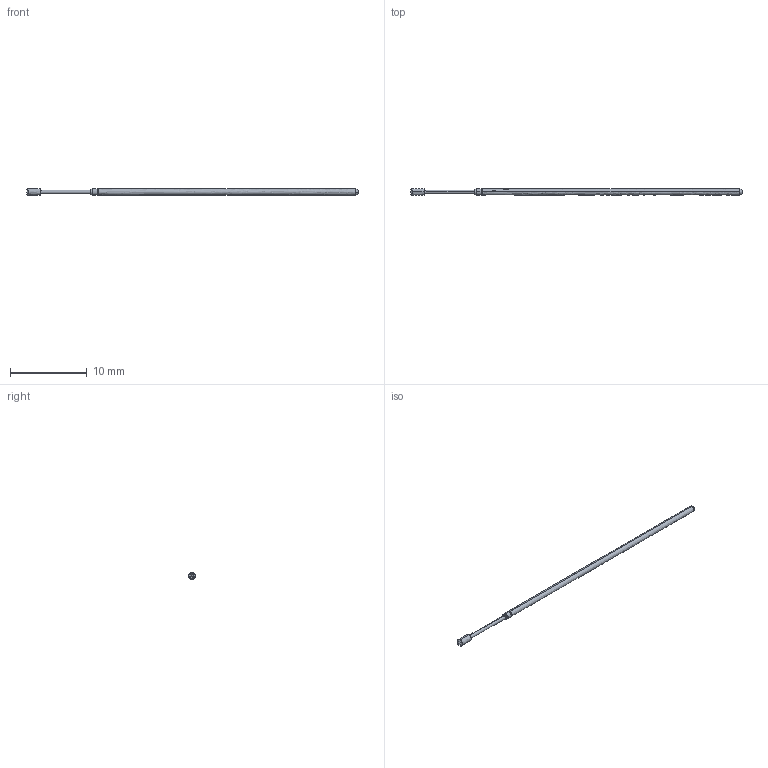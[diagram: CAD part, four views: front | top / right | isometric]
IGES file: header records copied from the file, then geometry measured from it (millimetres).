
Start section: SolidWorks IGES file using analytic representation for surfaces
Global section: file name: L:\probe solid model mockups\Solidworks models\POGO-72H.IGS; native system: SolidWorks 2006 by SolidWorks Corporation; preprocessor: SolidWorks 2006 by SolidWorks Corporation; author: Ksnyder; date: 071211.135629; units: inch
Bounding box: 43.18 x 0.89 x 0.89 mm (x, y, z)
Volume: 30 mm3; surface area: 185.3 mm2
Topology: 1 solids, 1 shells, 50 faces, 100 edges, 51 vertices
Faces by surface type: plane 30, revolution 20
